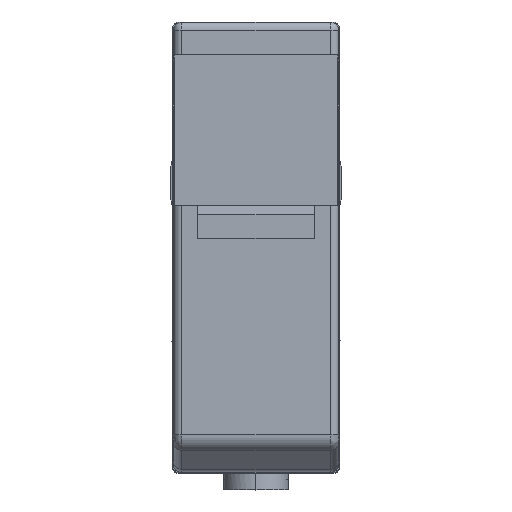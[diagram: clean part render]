
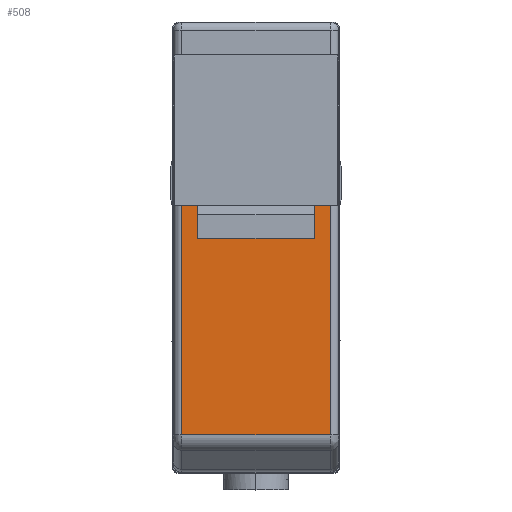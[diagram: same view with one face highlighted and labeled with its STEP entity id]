
A CAD part, top view. The second image highlights one B-rep face of the part: STEP entity #508.
In plain terms, the highlighted planar face has unit normal (0, 0, 1).
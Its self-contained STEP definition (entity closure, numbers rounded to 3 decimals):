
#508=ADVANCED_FACE('',(#2731),#2730,.F.);
#2730=PLANE('',#5044);
#2731=FACE_OUTER_BOUND('',#5045,.T.);
#5041=CARTESIAN_POINT('',(5.34,-26.283,27.4));
#5042=DIRECTION('',(0.,0.,-1.));
#5043=DIRECTION('',(-1.,0.,0.));
#5044=AXIS2_PLACEMENT_3D('',#5041,#5042,#5043);
#5045=EDGE_LOOP('',(#6795,#6796,#6797,#6798,#6799,#6800,#6801,#6802));
#6795=ORIENTED_EDGE('',*,*,#7904,.F.);
#6796=ORIENTED_EDGE('',*,*,#7911,.T.);
#6797=ORIENTED_EDGE('',*,*,#7912,.T.);
#6798=ORIENTED_EDGE('',*,*,#7913,.T.);
#6799=ORIENTED_EDGE('',*,*,#7896,.F.);
#6800=ORIENTED_EDGE('',*,*,#7832,.F.);
#6801=ORIENTED_EDGE('',*,*,#7841,.F.);
#6802=ORIENTED_EDGE('',*,*,#7834,.T.);
#7832=EDGE_CURVE('',#11494,#11479,#11501,.T.);
#7834=EDGE_CURVE('',#11515,#11508,#11516,.T.);
#7841=EDGE_CURVE('',#11515,#11494,#11561,.T.);
#7896=EDGE_CURVE('',#11479,#11931,#11932,.T.);
#7904=EDGE_CURVE('',#11978,#11508,#11985,.T.);
#7911=EDGE_CURVE('',#11978,#12031,#12032,.T.);
#7912=EDGE_CURVE('',#12031,#12038,#12039,.T.);
#7913=EDGE_CURVE('',#12038,#11931,#12045,.T.);
#11479=VERTEX_POINT('',#15573);
#11494=VERTEX_POINT('',#15582);
#11501=LINE('',#15586,#15587);
#11508=VERTEX_POINT('',#15590);
#11515=VERTEX_POINT('',#15594);
#11516=LINE('',#15595,#15596);
#11561=LINE('',#15619,#15620);
#11931=VERTEX_POINT('',#15828);
#11932=LINE('',#15829,#15830);
#11978=VERTEX_POINT('',#15855);
#11985=LINE('',#15860,#15861);
#12031=VERTEX_POINT('',#15885);
#12032=LINE('',#15886,#15887);
#12038=VERTEX_POINT('',#15889);
#12039=LINE('',#15890,#15891);
#12045=LINE('',#15893,#15894);
#15573=CARTESIAN_POINT('',(4.,-11.,27.4));
#15582=CARTESIAN_POINT('',(4.,-9.5,27.4));
#15586=CARTESIAN_POINT('',(4.,-9.5,27.4));
#15587=VECTOR('',#15588,1.5);
#15588=DIRECTION('',(0.,-1.,0.));
#15590=CARTESIAN_POINT('',(-4.,-11.,27.4));
#15594=CARTESIAN_POINT('',(-4.,-9.5,27.4));
#15595=CARTESIAN_POINT('',(-4.,-9.5,27.4));
#15596=VECTOR('',#15597,1.5);
#15597=DIRECTION('',(0.,-1.,0.));
#15619=CARTESIAN_POINT('',(-4.,-9.5,27.4));
#15620=VECTOR('',#15621,8.);
#15621=DIRECTION('',(1.,0.,0.));
#15828=CARTESIAN_POINT('',(4.45,-11.,27.4));
#15829=CARTESIAN_POINT('',(4.,-11.,27.4));
#15830=VECTOR('',#15831,0.45);
#15831=DIRECTION('',(1.,0.,0.));
#15855=CARTESIAN_POINT('',(-4.45,-11.,27.4));
#15860=CARTESIAN_POINT('',(-4.45,-11.,27.4));
#15861=VECTOR('',#15862,0.45);
#15862=DIRECTION('',(1.,0.,0.));
#15885=CARTESIAN_POINT('',(-4.45,-24.758,27.4));
#15886=CARTESIAN_POINT('',(-4.45,-11.,27.4));
#15887=VECTOR('',#15888,13.758);
#15888=DIRECTION('',(0.,-1.,0.));
#15889=CARTESIAN_POINT('',(4.45,-24.758,27.4));
#15890=CARTESIAN_POINT('',(-4.45,-24.758,27.4));
#15891=VECTOR('',#15892,8.9);
#15892=DIRECTION('',(1.,0.,0.));
#15893=CARTESIAN_POINT('',(4.45,-24.758,27.4));
#15894=VECTOR('',#15895,13.758);
#15895=DIRECTION('',(0.,1.,0.));
